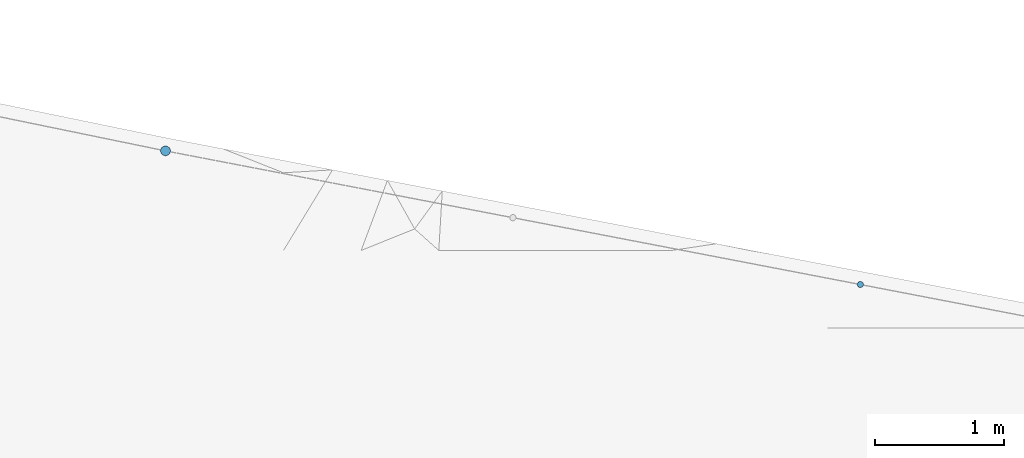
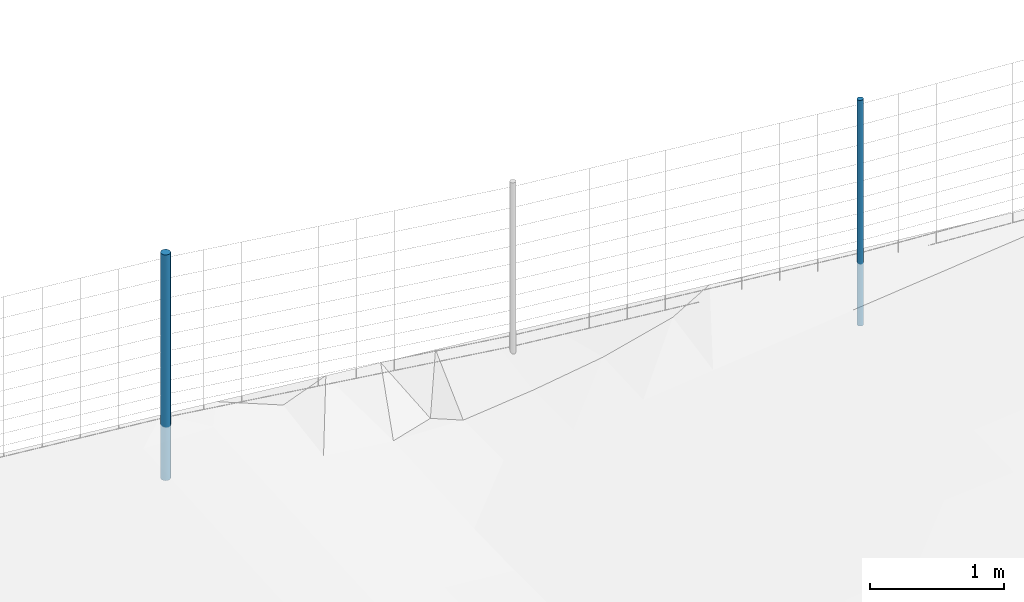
# Not in any storey, part 5 of 72: 2 members.
"""IFC4 model written with IfcOpenShell, lengths in metres."""

from ifc_helpers import new_model, si_unit, direction, frame, origin_with_axes, place, context, subcontext, project, spatial, circle, extrude, material, material_profile, profile_set, profile_usage, type_object, element, save


model = new_model("IFC4")

# Units and contexts
model_context = context("Model", 3, precision=1e-05, world=origin_with_axes(), true_north=direction((0.0, 1.0)))
body_context = subcontext(model_context, "Body", "Model", "MODEL_VIEW")
ifc_project = project(units=[si_unit("VOLUMEUNIT", "CUBIC_METRE"), si_unit("LENGTHUNIT", "METRE"), si_unit("AREAUNIT", "SQUARE_METRE")], contexts=[model_context])

# Site
site_placement = place(None, origin_with_axes())
site = spatial("IfcSite", under=ifc_project, at=site_placement, Name="Lares · Rua das Mercês · artigo 4771")

# Members
ifc_material = material(Name="Aço galvanizado / Stahl verzinkt", Category="steel")
ifc_material_profile_1 = material_profile(ifc_material, circle(Radius=0.038))
ifc_profile_set_1 = profile_set([ifc_material_profile_1], Name="D0.076")
ifc_profile_usage_1 = profile_usage(ifc_profile_set_1)
member_type_1 = type_object("IfcMemberType", Name="D0.076 / galvanized", PredefinedType="NOTDEFINED", material=ifc_profile_set_1)
member_1_placement = place(site_placement, frame((13.9820845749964, 21.8098206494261, 13.4214462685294), z_axis=(0.0, 0.0, 1.0), x_axis=(1.0, -1.03767253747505e-17, 0.0)))
element("IfcMember", 1, at=member_1_placement, inside=site, type_object=member_type_1, material=ifc_profile_usage_1, Name="Vedação · poste de canto/topo", PredefinedType="POST", context=body_context, shape_type="SweptSolid", body=[
    extrude(circle(Radius=0.038), origin_with_axes(), (0.0, 0.0, 1.0), 2.05),
])
ifc_material_profile_2 = material_profile(ifc_material, circle(Radius=0.024))
ifc_profile_set_2 = profile_set([ifc_material_profile_2], Name="D0.048")
ifc_profile_usage_2 = profile_usage(ifc_profile_set_2)
member_type_2 = type_object("IfcMemberType", Name="D0.048 / galvanized", PredefinedType="NOTDEFINED", material=ifc_profile_set_2)
member_2_placement = place(site_placement, frame((19.3509801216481, 20.7772689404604, 13.5610686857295), z_axis=(0.0, 0.0, 1.0), x_axis=(1.0, -1.03767253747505e-17, 0.0)))
element("IfcMember", 2, at=member_2_placement, inside=site, type_object=member_type_2, material=ifc_profile_usage_2, Name="Vedação · poste intermédio", PredefinedType="POST", context=body_context, shape_type="SweptSolid", body=[
    extrude(circle(Radius=0.024), origin_with_axes(), (0.0, 0.0, 1.0), 2.05),
])

save(model, "model.ifc")
